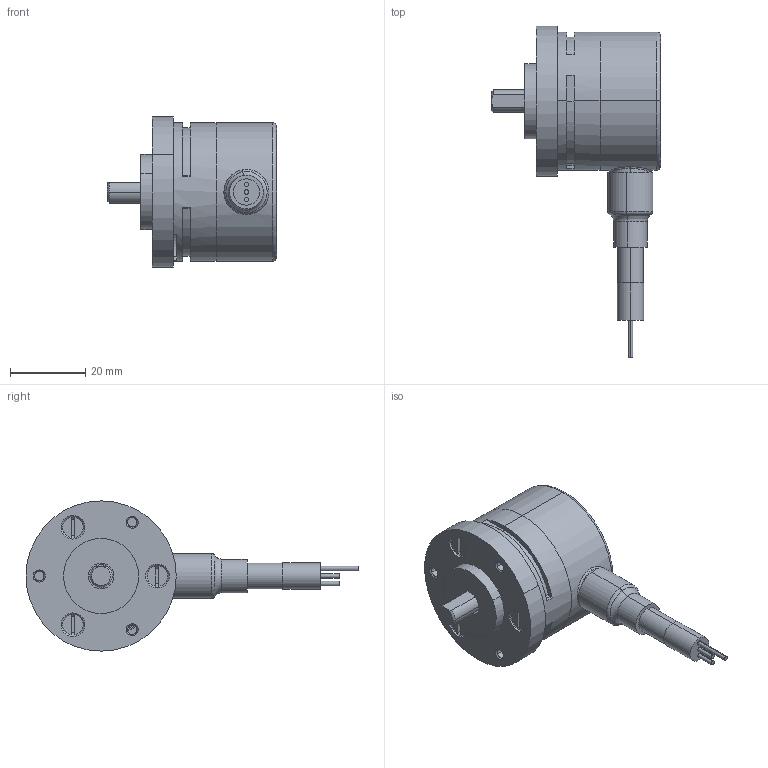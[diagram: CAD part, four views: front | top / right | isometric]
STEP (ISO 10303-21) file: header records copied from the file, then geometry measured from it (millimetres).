
FILE_DESCRIPTION (( 'STEP AP214' ), '1' );
FILE_NAME ('3700.A3X2.XXXX.STEP', '2008-11-25T08:30:49', ( 'admin' ), ( 'Fritz Kübler GmbH' ), 'SwSTEP 2.0', 'SolidWorks 2008', '' );
FILE_SCHEMA (( 'AUTOMOTIVE_DESIGN' ));
Length unit declared in the file: millimetre
Products named in the file (1): 3700.A3X2.XXXX
Bounding box: 45 x 88.4 x 40 mm (x, y, z)
Volume: 21138.3 mm3; surface area: 20886.2 mm2
Topology: 9 solids, 9 shells, 575 faces, 1360 edges, 821 vertices
Faces by surface type: cylinder 241, plane 140, torus 92, cone 48, bspline 29, sphere 25
Entity records: 24289 total; most frequent: CARTESIAN_POINT 4579, DIRECTION 3002, ORIENTED_EDGE 2674, EDGE_CURVE 1337, AXIS2_PLACEMENT_3D 1274, VERTEX_POINT 811, CIRCLE 727, EDGE_LOOP 626
